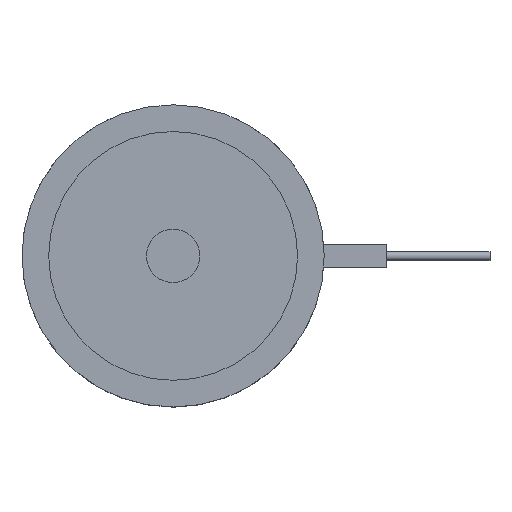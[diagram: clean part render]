
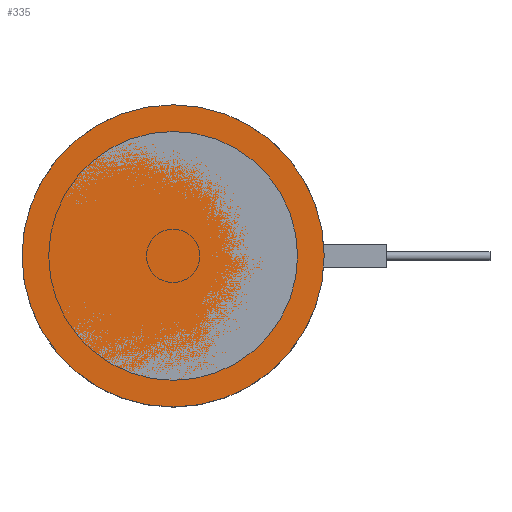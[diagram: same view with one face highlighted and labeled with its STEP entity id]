
A CAD part, top view. The second image highlights one B-rep face of the part: STEP entity #335.
In plain terms, the highlighted planar face has unit normal (0, 0, 1).
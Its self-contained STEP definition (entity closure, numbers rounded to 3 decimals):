
#247=CIRCLE('',#1162,17.);
#335=ADVANCED_FACE('',(#437),#400,.F.);
#400=PLANE('',#1163);
#437=FACE_OUTER_BOUND('',#526,.T.);
#526=EDGE_LOOP('',(#672));
#672=ORIENTED_EDGE('',*,*,#958,.F.);
#862=VERTEX_POINT('',#1718);
#958=EDGE_CURVE('',#862,#862,#247,.T.);
#1162=AXIS2_PLACEMENT_3D('',#1717,#1378,#1379);
#1163=AXIS2_PLACEMENT_3D('',#1719,#1380,#1381);
#1378=DIRECTION('',(0.,0.,-1.));
#1379=DIRECTION('',(-1.,0.,0.));
#1380=DIRECTION('',(0.,0.,-1.));
#1381=DIRECTION('',(-1.,0.,0.));
#1717=CARTESIAN_POINT('',(0.,0.,0.));
#1718=CARTESIAN_POINT('',(-17.,0.,0.));
#1719=CARTESIAN_POINT('',(0.,0.,0.));
